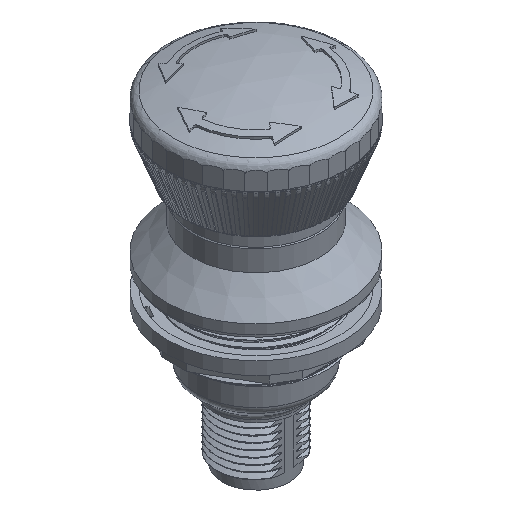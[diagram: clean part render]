
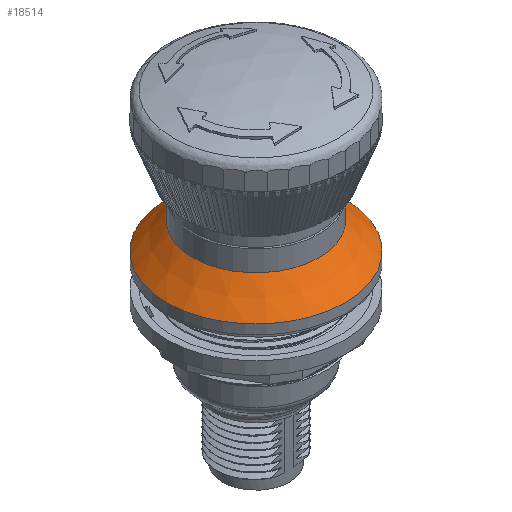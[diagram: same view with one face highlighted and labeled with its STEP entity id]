
A CAD part, isometric view. The second image highlights one B-rep face of the part: STEP entity #18514.
In plain terms, the highlighted conical face has half-angle 45 degrees and reference radius 11.963 mm.
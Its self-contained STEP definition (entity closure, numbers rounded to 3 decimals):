
#1252=LINE('',#35770,#2115);
#2115=VECTOR('',#24698,11.962);
#3239=CONICAL_SURFACE('',#20593,11.962,0.785);
#4067=FACE_OUTER_BOUND('',#5151,.T.);
#5151=EDGE_LOOP('',(#16118,#16119,#16120,#16121));
#6174=CIRCLE('',#20592,14.);
#6175=CIRCLE('',#20594,9.925);
#8504=VERTEX_POINT('',#35765);
#8505=VERTEX_POINT('',#35769);
#11120=EDGE_CURVE('',#8504,#8504,#6174,.T.);
#11121=EDGE_CURVE('',#8504,#8505,#1252,.T.);
#11122=EDGE_CURVE('',#8505,#8505,#6175,.T.);
#16118=ORIENTED_EDGE('',*,*,#11120,.F.);
#16119=ORIENTED_EDGE('',*,*,#11121,.T.);
#16120=ORIENTED_EDGE('',*,*,#11122,.T.);
#16121=ORIENTED_EDGE('',*,*,#11121,.F.);
#18514=ADVANCED_FACE('',(#4067),#3239,.T.);
#20592=AXIS2_PLACEMENT_3D('',#35767,#24694,#24695);
#20593=AXIS2_PLACEMENT_3D('',#35768,#24696,#24697);
#20594=AXIS2_PLACEMENT_3D('',#35771,#24699,#24700);
#24694=DIRECTION('center_axis',(0.,0.,-1.));
#24695=DIRECTION('ref_axis',(-1.,0.,0.));
#24696=DIRECTION('center_axis',(0.,0.,-1.));
#24697=DIRECTION('ref_axis',(-1.,0.,0.));
#24698=DIRECTION('',(-0.707,0.,0.707));
#24699=DIRECTION('center_axis',(0.,0.,-1.));
#24700=DIRECTION('ref_axis',(-1.,0.,0.));
#35765=CARTESIAN_POINT('',(14.,0.,-2.65));
#35767=CARTESIAN_POINT('Origin',(0.,0.,-2.65));
#35768=CARTESIAN_POINT('Origin',(0.,0.,-0.613));
#35769=CARTESIAN_POINT('',(9.925,0.,1.425));
#35770=CARTESIAN_POINT('',(11.962,0.,-0.613));
#35771=CARTESIAN_POINT('Origin',(0.,0.,1.425));
